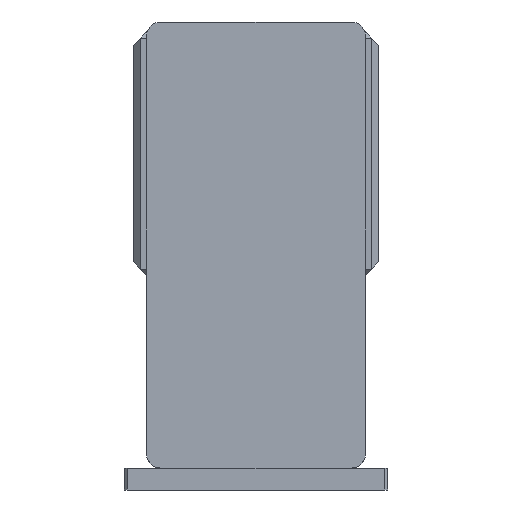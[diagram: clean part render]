
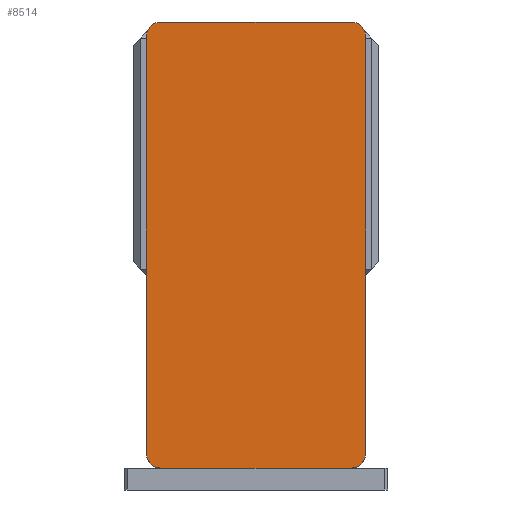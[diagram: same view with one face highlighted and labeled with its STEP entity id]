
A CAD part, left-side view. The second image highlights one B-rep face of the part: STEP entity #8514.
In plain terms, the highlighted planar face has unit normal (-1, 0, 0) as drawn and (0, 0, 1) by its records, which use the part's own axes.
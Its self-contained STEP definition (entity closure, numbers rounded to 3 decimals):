
#200 = VERTEX_POINT ( 'NONE', #7619 ) ;
#266 = CARTESIAN_POINT ( 'NONE',  ( -65., 142.5, 105. ) ) ;
#607 = DIRECTION ( 'NONE',  ( 0., 0., 1. ) ) ;
#901 = EDGE_CURVE ( 'NONE', #10677, #2272, #8014, .T. ) ;
#983 = CARTESIAN_POINT ( 'NONE',  ( 75., 152.5, 105. ) ) ;
#1175 = DIRECTION ( 'NONE',  ( 1., 0., 0. ) ) ;
#1333 = EDGE_CURVE ( 'NONE', #1559, #7790, #10453, .T. ) ;
#1474 = VECTOR ( 'NONE', #9731, 1000. ) ;
#1559 = VERTEX_POINT ( 'NONE', #9777 ) ;
#1592 = CIRCLE ( 'NONE', #7440, 10. ) ;
#1663 = VECTOR ( 'NONE', #10277, 1000. ) ;
#1942 = LINE ( 'NONE', #9308, #1663 ) ;
#2014 = DIRECTION ( 'NONE',  ( 1., 0., 0. ) ) ;
#2020 = DIRECTION ( 'NONE',  ( 0., 0., 1. ) ) ;
#2027 = CARTESIAN_POINT ( 'NONE',  ( 65., 142.5, 105. ) ) ;
#2171 = DIRECTION ( 'NONE',  ( 0., -1., 0. ) ) ;
#2189 = VECTOR ( 'NONE', #8162, 1000. ) ;
#2228 = LINE ( 'NONE', #2340, #7059 ) ;
#2272 = VERTEX_POINT ( 'NONE', #11660 ) ;
#2340 = CARTESIAN_POINT ( 'NONE',  ( -75., 152.5, 105. ) ) ;
#2438 = CARTESIAN_POINT ( 'NONE',  ( -75., 152.5, 105. ) ) ;
#2500 = CARTESIAN_POINT ( 'NONE',  ( 75., -142.5, 105. ) ) ;
#2529 = VERTEX_POINT ( 'NONE', #4248 ) ;
#2757 = EDGE_CURVE ( 'NONE', #7790, #2529, #6733, .T. ) ;
#2806 = ORIENTED_EDGE ( 'NONE', *, *, #901, .T. ) ;
#3664 = AXIS2_PLACEMENT_3D ( 'NONE', #2027, #2020, #2014 ) ;
#4248 = CARTESIAN_POINT ( 'NONE',  ( 75., 142.5, 105. ) ) ;
#4305 = CARTESIAN_POINT ( 'NONE',  ( -75., -142.5, 105. ) ) ;
#4658 = DIRECTION ( 'NONE',  ( 0., 0., 1. ) ) ;
#4690 = EDGE_CURVE ( 'NONE', #7611, #10548, #1592, .T. ) ;
#6054 = DIRECTION ( 'NONE',  ( 1., 0., 0. ) ) ;
#6524 = EDGE_LOOP ( 'NONE', ( #6627, #11039, #11444, #8293, #7650, #2806, #9526, #7476 ) ) ;
#6627 = ORIENTED_EDGE ( 'NONE', *, *, #9162, .T. ) ;
#6733 = LINE ( 'NONE', #983, #2189 ) ;
#6773 = CIRCLE ( 'NONE', #3664, 10. ) ;
#6840 = CARTESIAN_POINT ( 'NONE',  ( -65., -152.5, 105. ) ) ;
#6843 = CARTESIAN_POINT ( 'NONE',  ( 65., -142.5, 105. ) ) ;
#6996 = DIRECTION ( 'NONE',  ( 0., 0., 1. ) ) ;
#7059 = VECTOR ( 'NONE', #2171, 1000. ) ;
#7375 = CARTESIAN_POINT ( 'NONE',  ( 0., 0., 105. ) ) ;
#7406 = DIRECTION ( 'NONE',  ( 1., 0., 0. ) ) ;
#7440 = AXIS2_PLACEMENT_3D ( 'NONE', #7528, #7445, #7406 ) ;
#7445 = DIRECTION ( 'NONE',  ( 0., 0., 1. ) ) ;
#7476 = ORIENTED_EDGE ( 'NONE', *, *, #4690, .T. ) ;
#7528 = CARTESIAN_POINT ( 'NONE',  ( -65., -142.5, 105. ) ) ;
#7611 = VERTEX_POINT ( 'NONE', #4305 ) ;
#7619 = CARTESIAN_POINT ( 'NONE',  ( 65., 152.5, 105. ) ) ;
#7650 = ORIENTED_EDGE ( 'NONE', *, *, #10790, .T. ) ;
#7713 = CARTESIAN_POINT ( 'NONE',  ( -65., 152.5, 105. ) ) ;
#7790 = VERTEX_POINT ( 'NONE', #2500 ) ;
#7805 = EDGE_CURVE ( 'NONE', #2272, #7611, #2228, .T. ) ;
#7827 = EDGE_CURVE ( 'NONE', #2529, #200, #6773, .T. ) ;
#8014 = CIRCLE ( 'NONE', #11528, 10. ) ;
#8162 = DIRECTION ( 'NONE',  ( 0., 1., 0. ) ) ;
#8293 = ORIENTED_EDGE ( 'NONE', *, *, #7827, .T. ) ;
#8514 = ADVANCED_FACE ( 'NONE', ( #11206 ), #10157, .T. ) ;
#8718 = LINE ( 'NONE', #2438, #1474 ) ;
#9162 = EDGE_CURVE ( 'NONE', #10548, #1559, #1942, .T. ) ;
#9308 = CARTESIAN_POINT ( 'NONE',  ( -75., -152.5, 105. ) ) ;
#9526 = ORIENTED_EDGE ( 'NONE', *, *, #7805, .T. ) ;
#9731 = DIRECTION ( 'NONE',  ( -1., 0., 0. ) ) ;
#9765 = AXIS2_PLACEMENT_3D ( 'NONE', #7375, #4658, #11058 ) ;
#9777 = CARTESIAN_POINT ( 'NONE',  ( 65., -152.5, 105. ) ) ;
#10157 = PLANE ( 'NONE',  #9765 ) ;
#10277 = DIRECTION ( 'NONE',  ( 1., 0., 0. ) ) ;
#10453 = CIRCLE ( 'NONE', #11458, 10. ) ;
#10548 = VERTEX_POINT ( 'NONE', #6840 ) ;
#10677 = VERTEX_POINT ( 'NONE', #7713 ) ;
#10790 = EDGE_CURVE ( 'NONE', #200, #10677, #8718, .T. ) ;
#11039 = ORIENTED_EDGE ( 'NONE', *, *, #1333, .T. ) ;
#11058 = DIRECTION ( 'NONE',  ( 1., 0., 0. ) ) ;
#11206 = FACE_OUTER_BOUND ( 'NONE', #6524, .T. ) ;
#11444 = ORIENTED_EDGE ( 'NONE', *, *, #2757, .T. ) ;
#11458 = AXIS2_PLACEMENT_3D ( 'NONE', #6843, #6996, #6054 ) ;
#11528 = AXIS2_PLACEMENT_3D ( 'NONE', #266, #607, #1175 ) ;
#11660 = CARTESIAN_POINT ( 'NONE',  ( -75., 142.5, 105. ) ) ;
